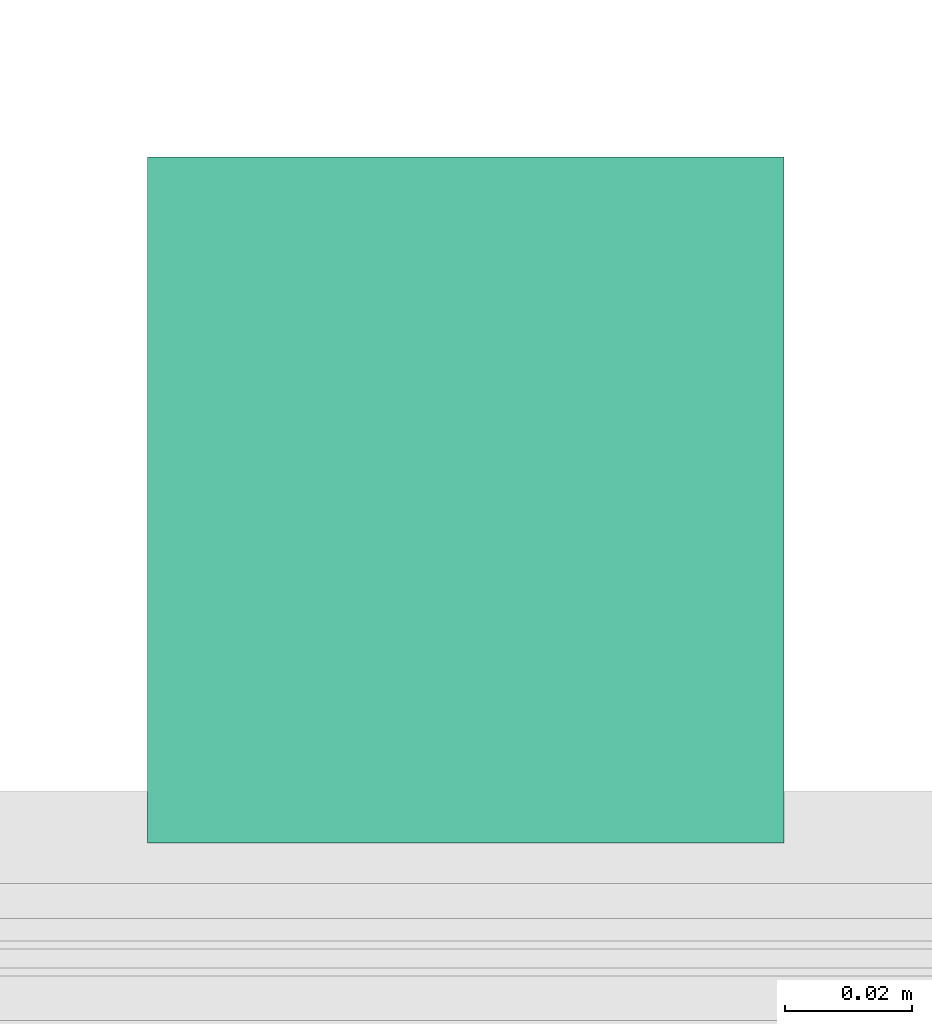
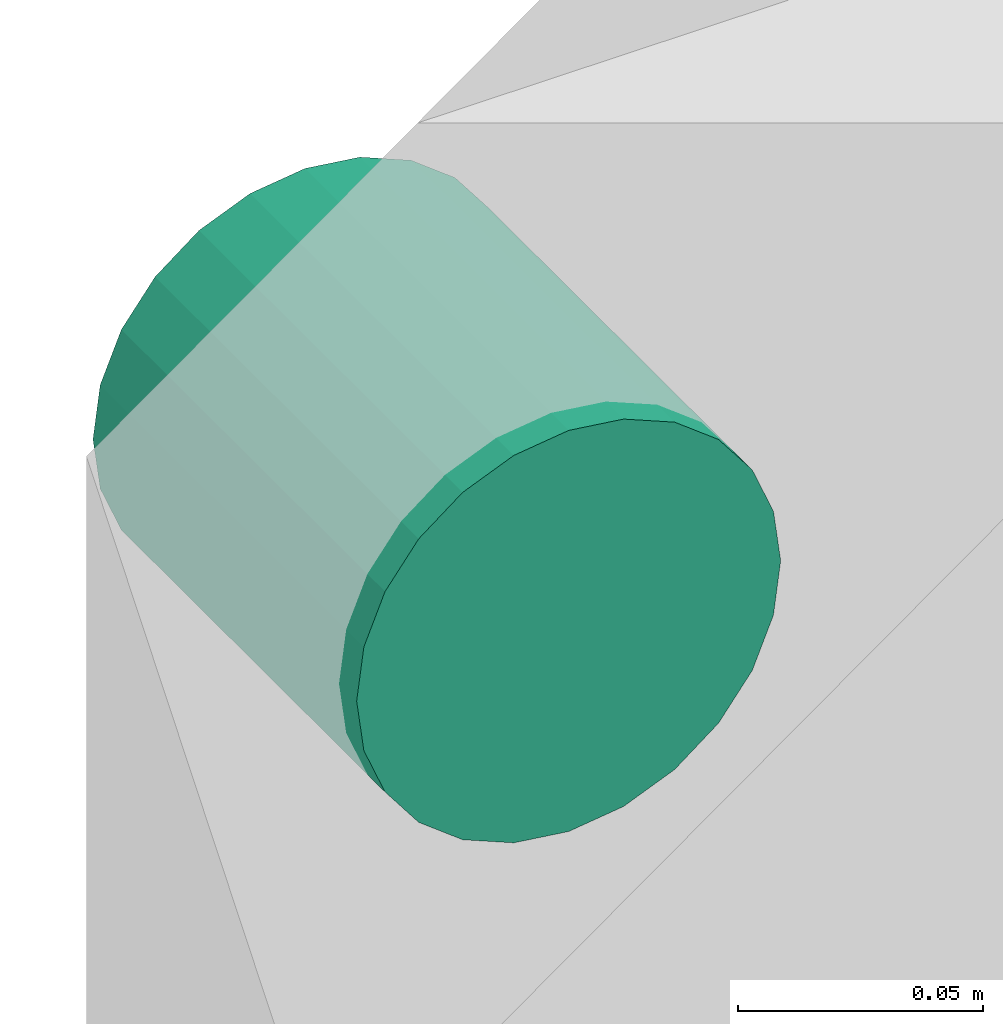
# One storey, part 3 of 22: 1 flow fitting.
"""IFC2X3 building model written with IfcOpenShell, lengths in millimetres."""

import ifcopenshell
import ifcopenshell.guid

model = None  # the IFC model being written
_history = None  # IfcOwnerHistory: only IFC2X3 demands one
_inside = {}  # id of a spatial element -> (the spatial element, [elements in it])
_under = {}  # id of a project, library or spatial element -> (it, [spatial elements below it])
_declared = {}  # id of a project -> (the project, [libraries it declares])
_typed = {}  # id of a type object -> (the type object, [elements of that type])
_made_of = {}  # id of a material, layer set ... -> (it, [elements and type objects made of it])


def new_model(schema):
    """Start an empty IFC model of exactly this schema.

    Asked for "IFC4X3", IfcOpenShell would pick the latest addendum, in which some entities
    have other attributes; the version numbers below select the first issue.
    IFC2X3 requires an IfcOwnerHistory on every rooted entity: one is made here for all.
    """
    global model, _history
    if schema == "IFC4X3":
        model = ifcopenshell.file(schema_version=(4, 3, 0, 0))
    else:
        model = ifcopenshell.file(schema=schema)
    _inside.clear()
    _under.clear()
    _declared.clear()
    _typed.clear()
    _made_of.clear()
    _history = None
    if model.schema == "IFC2X3":
        org = make("IfcOrganization", Name="unknown")
        user = make(
            "IfcPersonAndOrganization",
            ThePerson=make("IfcPerson", FamilyName="unknown"),
            TheOrganization=org,
        )
        app = make(
            "IfcApplication",
            ApplicationDeveloper=org,
            Version="unknown",
            ApplicationFullName="unknown",
            ApplicationIdentifier="unknown",
        )
        _history = make(
            "IfcOwnerHistory",
            OwningUser=user,
            OwningApplication=app,
            ChangeAction="ADDED",
            CreationDate=0,
        )
    return model


def make(cls, **values):
    """One entity of the class cls with the attributes given. An attribute that is None is left unset."""
    return model.create_entity(
        cls, **{name: value for name, value in values.items() if value is not None}
    )


def entity(cls, *values):
    """Any entity or typed value of the class cls, its attributes in the order of the schema. None: left unset."""
    e = model.create_entity(cls)
    for i, value in enumerate(values):
        if value is not None:
            e[i] = value
    return e


def rooted(cls, **values):
    """An entity with a GlobalId (a new one), such as an element, a storey or a relation."""
    return make(cls, GlobalId=ifcopenshell.guid.new(), OwnerHistory=_history, **values)


def si_unit(unit_type, name, prefix=None):
    """IfcSIUnit, for example si_unit("LENGTHUNIT", "METRE", prefix="MILLI")."""
    return make("IfcSIUnit", UnitType=unit_type, Prefix=prefix, Name=name)


def converted_unit(unit_type, name, factor, base, dimensions=None, offset=None):
    """IfcConversionBasedUnit, such as the inch: factor (a typed value) times the base unit."""
    return make(
        "IfcConversionBasedUnit"
        if offset is None
        else "IfcConversionBasedUnitWithOffset",
        ConversionOffset=offset,
        Dimensions=None
        if dimensions is None
        else entity("IfcDimensionalExponents", *dimensions),
        UnitType=unit_type,
        Name=name,
        ConversionFactor=make(
            "IfcMeasureWithUnit", ValueComponent=factor, UnitComponent=base
        ),
    )


def derived_unit(unit_type, elements):
    """IfcDerivedUnit: a product of units, each with its exponent."""
    return make(
        "IfcDerivedUnit",
        Elements=[
            make("IfcDerivedUnitElement", Unit=unit, Exponent=power)
            for unit, power in elements
        ],
        UnitType=unit_type,
    )


def assignment(units):
    """IfcUnitAssignment: the units of a project."""
    return None if units is None else make("IfcUnitAssignment", Units=units)


def point(xyz):
    """IfcCartesianPoint."""
    return None if xyz is None else make("IfcCartesianPoint", Coordinates=xyz)


def direction(xyz):
    """IfcDirection."""
    return None if xyz is None else make("IfcDirection", DirectionRatios=xyz)


def frame(location, z_axis=None, x_axis=None):
    """IfcAxis2Placement3D, a coordinate frame: its origin and axes. An axis left out is left unset."""
    return make(
        "IfcAxis2Placement3D",
        Location=point(location),
        Axis=direction(z_axis),
        RefDirection=direction(x_axis),
    )


def origin():
    """The frame at (0, 0, 0) with its axes left unset."""
    return frame((0.0, 0.0, 0.0))


def place(relative_to, where):
    """IfcLocalPlacement: puts the frame where relative to a parent placement (None: the world)."""
    return make(
        "IfcLocalPlacement", PlacementRelTo=relative_to, RelativePlacement=where
    )


def context(
    kind, dimensions, precision=None, world=None, true_north=None, identifier=None
):
    """IfcGeometricRepresentationContext, for example the 3D "Model" context."""
    return make(
        "IfcGeometricRepresentationContext",
        ContextIdentifier=identifier,
        ContextType=kind,
        CoordinateSpaceDimension=dimensions,
        Precision=precision,
        WorldCoordinateSystem=world,
        TrueNorth=true_north,
    )


def subcontext(parent, identifier, kind, view, scale=None):
    """IfcGeometricRepresentationSubContext, for example "Body" below "Model"."""
    return make(
        "IfcGeometricRepresentationSubContext",
        ContextIdentifier=identifier,
        ContextType=kind,
        ParentContext=parent,
        TargetScale=scale,
        TargetView=view,
    )


def project(units=None, contexts=None):
    """IfcProject with its units and contexts."""
    return rooted(
        "IfcProject",
        Name="project",
        RepresentationContexts=contexts,
        UnitsInContext=assignment(units),
    )


def spatial(cls, under=None, at=None, **own):
    """A site, building, storey or space (cls), placed at a placement, below another one or the project."""
    s = rooted(cls, ObjectPlacement=at, **own)
    if under is not None:
        _under.setdefault(under.id(), (under, []))[1].append(s)
    return s


def faces_of(points, faces, orient=None, outer=None):
    """IfcFace entities. A face is a list of loops; a loop is a list of indices into points, from 0.

    orient and outer hold one flag for each loop. By default every Orientation is true, the
    first loop of a face is its IfcFaceOuterBound and the others are IfcFaceBound.
    """
    made = []
    for i, loops in enumerate(faces):
        bounds = []
        for j, loop in enumerate(loops):
            is_outer = j == 0 if outer is None else outer[i][j]
            bounds.append(
                make(
                    "IfcFaceOuterBound" if is_outer else "IfcFaceBound",
                    Bound=make("IfcPolyLoop", Polygon=[points[k] for k in loop]),
                    Orientation=True if orient is None else orient[i][j],
                )
            )
        made.append(make("IfcFace", Bounds=bounds))
    return made


def faceted_brep(points, faces, orient=None, outer=None, voids=None):
    """IfcFacetedBrep: a solid bounded by flat faces; with voids (closed shells), ...WithVoids."""
    shared = [point(p) for p in points]
    hull = make("IfcClosedShell", CfsFaces=faces_of(shared, faces, orient, outer))
    if voids is None:
        return make("IfcFacetedBrep", Outer=hull)
    return make(
        "IfcFacetedBrepWithVoids",
        Outer=hull,
        Voids=[
            make(cls, CfsFaces=faces_of(shared, fs, o, b)) for cls, fs, o, b in voids
        ],
    )


def shape(context_of_items, identifier, shape_type, items):
    """IfcShapeRepresentation: the items that make up one representation, for example the "Body"."""
    return make(
        "IfcShapeRepresentation",
        ContextOfItems=context_of_items,
        RepresentationIdentifier=identifier,
        RepresentationType=shape_type,
        Items=items,
    )


def source(mapping_origin, context_of_items, identifier, shape_type, items):
    """IfcRepresentationMap: a shape defined once, which mapped items show again and again."""
    return make(
        "IfcRepresentationMap",
        MappingOrigin=mapping_origin,
        MappedRepresentation=shape(context_of_items, identifier, shape_type, items),
    )


def transform(
    local_origin,
    x_axis=None,
    y_axis=None,
    z_axis=None,
    scale=None,
    scale2=None,
    scale3=None,
    uniform=True,
):
    """IfcCartesianTransformationOperator3D, or its non-uniform kind. x_axis, y_axis, z_axis: its Axis1, 2, 3."""
    if uniform:
        return make(
            "IfcCartesianTransformationOperator3D",
            Axis1=direction(x_axis),
            Axis2=direction(y_axis),
            LocalOrigin=point(local_origin),
            Scale=scale,
            Axis3=direction(z_axis),
        )
    return make(
        "IfcCartesianTransformationOperator3DnonUniform",
        Axis1=direction(x_axis),
        Axis2=direction(y_axis),
        LocalOrigin=point(local_origin),
        Scale=scale,
        Axis3=direction(z_axis),
        Scale2=scale2,
        Scale3=scale3,
    )


def mapped(mapping_source, mapping_target):
    """IfcMappedItem: shows the shape of a source again, moved by a transform."""
    return make(
        "IfcMappedItem", MappingSource=mapping_source, MappingTarget=mapping_target
    )


def material(Name=None, Category=None):
    """IfcMaterial."""
    return make("IfcMaterial", Name=Name, Category=Category)


def made_of(thing, what):
    """Note that an element or type object is made of a material, layer set ...; save() writes the relation."""
    if what is not None:
        _made_of.setdefault(what.id(), (what, []))[1].append(thing)
    return thing


def type_object(cls, material=None, **own):
    """A type object (cls), such as IfcWallType, which elements share."""
    return made_of(rooted(cls, **own), material)


def type_shapes(of_type, sources):
    """Give a type object the sources (RepresentationMaps) that its elements show as mapped items."""
    of_type.RepresentationMaps = sources


def element(
    cls,
    number,
    at=None,
    inside=None,
    cuts=None,
    type_object=None,
    material=None,
    context=None,
    identifier="Body",
    shape_type=None,
    held_by="IfcProductDefinitionShape",
    body=None,
    shapes=None,
    **own,
):
    """One element of the class cls, such as IfcWall. Its Tag is "e" and its number.

    at: its placement. inside: the storey or other place that contains it. cuts: it is an
    opening in that element (IfcRelVoidsElement). A single representation is given by context,
    identifier, shape_type and body (its items); several are given by shapes. held_by: the class
    of the entity that holds the representations. save() writes the other relations.
    """
    e = rooted(cls, Tag="e%d" % number, ObjectPlacement=at, **own)
    if body is not None:
        shapes = [shape(context, identifier, shape_type, body)]
    if shapes is not None:
        e.Representation = make(held_by, Representations=shapes)
    if inside is not None:
        _inside.setdefault(inside.id(), (inside, []))[1].append(e)
    if cuts is not None:
        rooted(
            "IfcRelVoidsElement", RelatingBuildingElement=cuts, RelatedOpeningElement=e
        )
    if type_object is not None:
        _typed.setdefault(type_object.id(), (type_object, []))[1].append(e)
    return made_of(e, material)


def aggregate(whole, parts):
    """IfcRelAggregates: a whole, such as a stair, and the parts it consists of."""
    return rooted("IfcRelAggregates", RelatingObject=whole, RelatedObjects=parts)


def save(model, path):
    """Write the relations noted so far, then the file.

    IfcRelAggregates (storeys below a building ...), IfcRelContainedInSpatialStructure (elements
    in a storey), IfcRelDefinesByType, IfcRelAssociatesMaterial and IfcRelDeclares: one each for
    every whole, place, type object, material and project.
    """
    for whole, parts in _under.values():
        aggregate(whole, parts)
    for where, things in _inside.values():
        rooted(
            "IfcRelContainedInSpatialStructure",
            RelatedElements=things,
            RelatingStructure=where,
        )
    for kind, things in _typed.values():
        rooted("IfcRelDefinesByType", RelatedObjects=things, RelatingType=kind)
    for what, things in _made_of.values():
        rooted("IfcRelAssociatesMaterial", RelatedObjects=things, RelatingMaterial=what)
    for by, libraries in _declared.values():
        rooted("IfcRelDeclares", RelatingContext=by, RelatedDefinitions=libraries)
    model.write(path)


model = new_model("IFC2X3")

# Units and contexts
model_context = context("Model", 3, precision=0.01, world=origin(), true_north=direction((6.123233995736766e-17, 1.0)))
body_context = subcontext(model_context, "Body", "Model", "MODEL_VIEW")
ifc_project = project(units=[si_unit("LENGTHUNIT", "METRE", prefix="MILLI"), converted_unit("PLANEANGLEUNIT", "DEGREE", entity("IfcPlaneAngleMeasure", 0.017453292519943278), si_unit("PLANEANGLEUNIT", "RADIAN"), dimensions=[0, 0, 0, 0, 0, 0, 0]), si_unit("AREAUNIT", "SQUARE_METRE"), derived_unit("THERMALTRANSMITTANCEUNIT", [(si_unit("MASSUNIT", "GRAM", prefix="KILO"), 1), (si_unit("THERMODYNAMICTEMPERATUREUNIT", "KELVIN"), -1), (si_unit("TIMEUNIT", "SECOND"), -3)])], contexts=[model_context])

# Site, building, storey
site_placement = place(None, origin())
site = spatial("IfcSite", under=ifc_project, at=site_placement, Name="Default", CompositionType="ELEMENT")
building_placement = place(site_placement, origin())
building = spatial("IfcBuilding", under=site, at=building_placement, Name="Praça Pedro II, 1301 - Centro (Sul), Teresina - PI, 64001-100", CompositionType="ELEMENT")
storey_placement = place(building_placement, frame((0.0, 0.0, 320.0)))
storey = spatial("IfcBuildingStorey", under=building, at=storey_placement, Name="TÉRREO +0.32m", CompositionType="ELEMENT", Elevation=319.99999999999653)

# Flow fitting
ifc_material = material(Name="<Unnamed>")
duct_fitting_type = type_object("IfcDuctFittingType", Name="M_Encaixe de duto redondo:Padrão", PredefinedType="NOTDEFINED", material=ifc_material)
shared_shape = source(origin(), body_context, "Body", "Brep", [
    faceted_brep([(101.60000000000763, 50.0, 0.0), (101.60000000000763, 48.296291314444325, 12.940952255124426), (101.60000000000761, 43.301270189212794, 25.0), (101.6000000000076, 35.35533905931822, 35.35533905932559), (101.60000000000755, 25.0, 43.30127018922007), (101.60000000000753, 12.94095225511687, 48.29629131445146), (101.6000000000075, 0.0, 50.0), (101.60000000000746, -12.940952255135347, 48.29629131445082), (101.60000000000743, -25.0, 43.30127018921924), (101.6000000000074, -35.35533905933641, 35.355339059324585), (101.60000000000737, -43.301270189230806, 25.0), (101.60000000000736, -48.296291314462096, 12.940952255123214), (101.60000000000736, -50.0, 0.0), (101.60000000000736, -48.29629131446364, -12.94095225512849), (101.60000000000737, -43.301270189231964, -25.0), (101.6000000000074, -35.35533905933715, -35.35533905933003), (101.60000000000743, -25.0, -43.30127018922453), (101.60000000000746, -12.94095225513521, -48.29629131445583), (101.6000000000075, 0.0, -50.0), (101.60000000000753, 12.9409522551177, -48.29629131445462), (101.60000000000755, 25.0, -43.30127018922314), (101.6000000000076, 35.35533905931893, -35.35533905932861), (101.60000000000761, 43.30127018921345, -25.0), (101.60000000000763, 48.2962913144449, -12.940952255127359), (0.0, 12.940952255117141, 48.29629131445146), (-6.0959999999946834, 12.94095225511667, 48.29629131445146), (-6.095999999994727, 0.0, 50.0), (0.0, 0.0, 50.0), (0.0, 25.0, 43.30127018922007), (-6.0959999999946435, 25.0, 43.30127018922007), (0.0, 35.35533905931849, 35.35533905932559), (-6.095999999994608, 35.35533905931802, 35.35533905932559), (0.0, 48.296291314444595, 12.940952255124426), (-6.095999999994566, 48.296291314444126, 12.940952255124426), (-6.095999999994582, 43.3012701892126, 25.0), (0.0, 43.301270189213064, 25.0), (0.0, 50.0, 0.0), (-6.09599999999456, 50.0, 0.0), (0.0, 43.30127018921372, -25.0), (-6.095999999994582, 43.30127018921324, -25.0), (-6.095999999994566, 48.296291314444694, -12.940952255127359), (0.0, 48.29629131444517, -12.940952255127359), (0.0, 35.3553390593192, -35.35533905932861), (-6.095999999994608, 35.35533905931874, -35.35533905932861), (0.0, 12.940952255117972, -48.29629131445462), (-6.0959999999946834, 12.940952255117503, -48.29629131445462), (-6.0959999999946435, 25.0, -43.30127018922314), (0.0, 25.0, -43.30127018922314), (0.0, 0.0, -50.0), (-6.095999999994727, 0.0, -50.0), (0.0, -12.940952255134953, -48.29629131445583), (-6.09599999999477, -12.940952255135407, -48.29629131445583), (0.0, -25.0, -43.30127018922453), (-6.0959999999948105, -25.0, -43.30127018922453), (0.0, -35.35533905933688, -35.35533905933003), (-6.095999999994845, -35.355339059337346, -35.35533905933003), (0.0, -48.29629131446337, -12.94095225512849), (-6.095999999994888, -48.29629131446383, -12.94095225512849), (-6.095999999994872, -43.30127018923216, -25.0), (0.0, -43.301270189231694, -25.0), (0.0, -50.0, 0.0), (-6.095999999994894, -50.0, 0.0), (0.0, -48.296291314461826, 12.940952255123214), (-6.095999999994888, -48.296291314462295, 12.940952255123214), (0.0, -43.30127018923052, 25.0), (-6.095999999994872, -43.301270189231, 25.0), (0.0, -35.35533905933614, 35.355339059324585), (-6.095999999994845, -35.35533905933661, 35.355339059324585), (0.0, -12.940952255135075, 48.29629131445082), (-6.09599999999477, -12.940952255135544, 48.29629131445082), (-6.0959999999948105, -25.0, 43.30127018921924), (0.0, -25.0, 43.30127018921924)], [[[0, 1, 2, 3, 4, 5, 6, 7, 8, 9, 10, 11, 12, 13, 14, 15, 16, 17, 18, 19, 20, 21, 22, 23]], [[24, 25, 26, 27, 6, 5]], [[28, 29, 25, 24, 5, 4]], [[4, 3, 30, 31, 29, 28]], [[32, 33, 34, 35, 2, 1]], [[36, 37, 33, 32, 1, 0]], [[3, 2, 35, 34, 31, 30]], [[23, 22, 38, 39, 40, 41]], [[0, 23, 41, 40, 37, 36]], [[22, 21, 42, 43, 39, 38]], [[44, 45, 46, 47, 20, 19]], [[48, 49, 45, 44, 19, 18]], [[21, 20, 47, 46, 43, 42]], [[50, 51, 49, 48, 18, 17]], [[52, 53, 51, 50, 17, 16]], [[16, 15, 54, 55, 53, 52]], [[56, 57, 58, 59, 14, 13]], [[60, 61, 57, 56, 13, 12]], [[15, 14, 59, 58, 55, 54]], [[62, 63, 61, 60, 12, 11]], [[64, 65, 63, 62, 11, 10]], [[10, 9, 66, 67, 65, 64]], [[68, 69, 70, 71, 8, 7]], [[27, 26, 69, 68, 7, 6]], [[9, 8, 71, 70, 67, 66]], [[49, 51, 53, 55, 58, 57, 61, 63, 65, 67, 70, 69, 26, 25, 29, 31, 34, 33, 37, 40, 39, 43, 46, 45]]]),
])
type_shapes(duct_fitting_type, [shared_shape])
flow_fitting_placement = place(storey_placement, frame((5817.2857525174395, -67537.67651651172, 2940.791966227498), z_axis=(1.0, 0.0, 0.0), x_axis=(0.0, 1.0, 0.0)))
element("IfcFlowFitting", 1, at=flow_fitting_placement, inside=storey, type_object=duct_fitting_type, material=ifc_material, Name="M_Encaixe de duto redondo:Padrão", ObjectType="M_Encaixe de duto redondo:Padrão", context=body_context, shape_type="MappedRepresentation", body=[
    mapped(shared_shape, transform((0.0, 0.0, 0.0), scale=1.0)),
])

save(model, "model.ifc")
